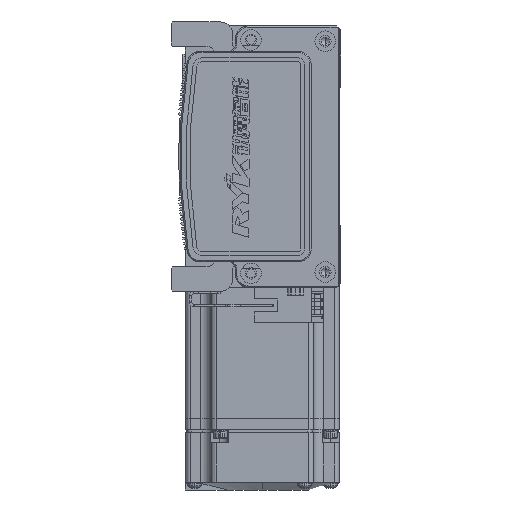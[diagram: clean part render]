
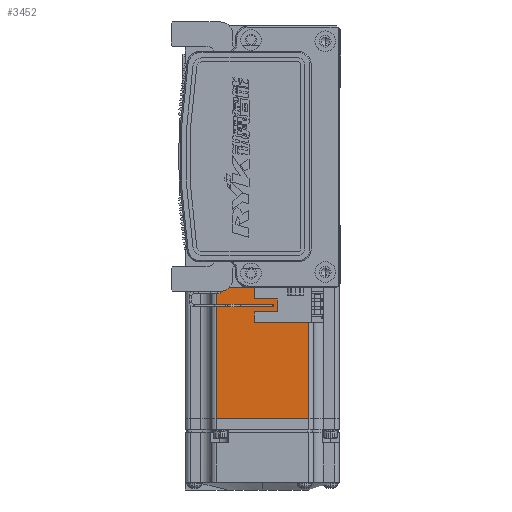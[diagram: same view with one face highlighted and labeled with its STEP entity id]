
A CAD part, left-side view. The second image highlights one B-rep face of the part: STEP entity #3452.
In plain terms, the highlighted planar face has unit normal (-1, 0, 0) as drawn and (0, 0, 1) by its records, which use the part's own axes.
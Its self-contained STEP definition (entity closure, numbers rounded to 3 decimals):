
#2212 = LINE ( 'NONE', #62716, #12412 ) ;
#3452 = ADVANCED_FACE ( 'NONE', ( #54628 ), #17284, .T. ) ;
#5258 = VERTEX_POINT ( 'NONE', #41989 ) ;
#6368 = DIRECTION ( 'NONE',  ( 0., 0., 1. ) ) ;
#6597 = CARTESIAN_POINT ( 'NONE',  ( -6.5, -25., 30. ) ) ;
#8303 = VERTEX_POINT ( 'NONE', #68110 ) ;
#11972 = LINE ( 'NONE', #64085, #50956 ) ;
#12277 = DIRECTION ( 'NONE',  ( 1., 0., 0. ) ) ;
#12412 = VECTOR ( 'NONE', #30773, 1000. ) ;
#12450 = EDGE_CURVE ( 'NONE', #16230, #39586, #58772, .T. ) ;
#12991 = AXIS2_PLACEMENT_3D ( 'NONE', #6597, #6368, #12277 ) ;
#14644 = ORIENTED_EDGE ( 'NONE', *, *, #62636, .F. ) ;
#16230 = VERTEX_POINT ( 'NONE', #53186 ) ;
#17284 = PLANE ( 'NONE',  #12991 ) ;
#28422 = EDGE_LOOP ( 'NONE', ( #40653, #40505, #38190, #14644 ) ) ;
#29170 = LINE ( 'NONE', #29252, #41031 ) ;
#29252 = CARTESIAN_POINT ( 'NONE',  ( -6.5, 18., 30. ) ) ;
#30773 = DIRECTION ( 'NONE',  ( -1., 0., 0. ) ) ;
#32084 = DIRECTION ( 'NONE',  ( 0., -1., 0. ) ) ;
#33210 = CARTESIAN_POINT ( 'NONE',  ( -7.75, -18., 30. ) ) ;
#38190 = ORIENTED_EDGE ( 'NONE', *, *, #42897, .T. ) ;
#39586 = VERTEX_POINT ( 'NONE', #33210 ) ;
#40505 = ORIENTED_EDGE ( 'NONE', *, *, #50823, .T. ) ;
#40653 = ORIENTED_EDGE ( 'NONE', *, *, #12450, .F. ) ;
#41031 = VECTOR ( 'NONE', #45557, 1000. ) ;
#41989 = CARTESIAN_POINT ( 'NONE',  ( -70.95, 18., 30. ) ) ;
#42787 = DIRECTION ( 'NONE',  ( 0., -1., 0. ) ) ;
#42897 = EDGE_CURVE ( 'NONE', #5258, #8303, #11972, .T. ) ;
#45557 = DIRECTION ( 'NONE',  ( -1., 0., 0. ) ) ;
#50823 = EDGE_CURVE ( 'NONE', #16230, #5258, #29170, .T. ) ;
#50956 = VECTOR ( 'NONE', #42787, 1000. ) ;
#53186 = CARTESIAN_POINT ( 'NONE',  ( -7.75, 18., 30. ) ) ;
#54628 = FACE_OUTER_BOUND ( 'NONE', #28422, .T. ) ;
#58772 = LINE ( 'NONE', #58821, #69798 ) ;
#58821 = CARTESIAN_POINT ( 'NONE',  ( -7.75, 0., 30. ) ) ;
#62636 = EDGE_CURVE ( 'NONE', #39586, #8303, #2212, .T. ) ;
#62716 = CARTESIAN_POINT ( 'NONE',  ( -6.5, -18., 30. ) ) ;
#64085 = CARTESIAN_POINT ( 'NONE',  ( -70.95, 0., 30. ) ) ;
#68110 = CARTESIAN_POINT ( 'NONE',  ( -70.95, -18., 30. ) ) ;
#69798 = VECTOR ( 'NONE', #32084, 1000. ) ;
